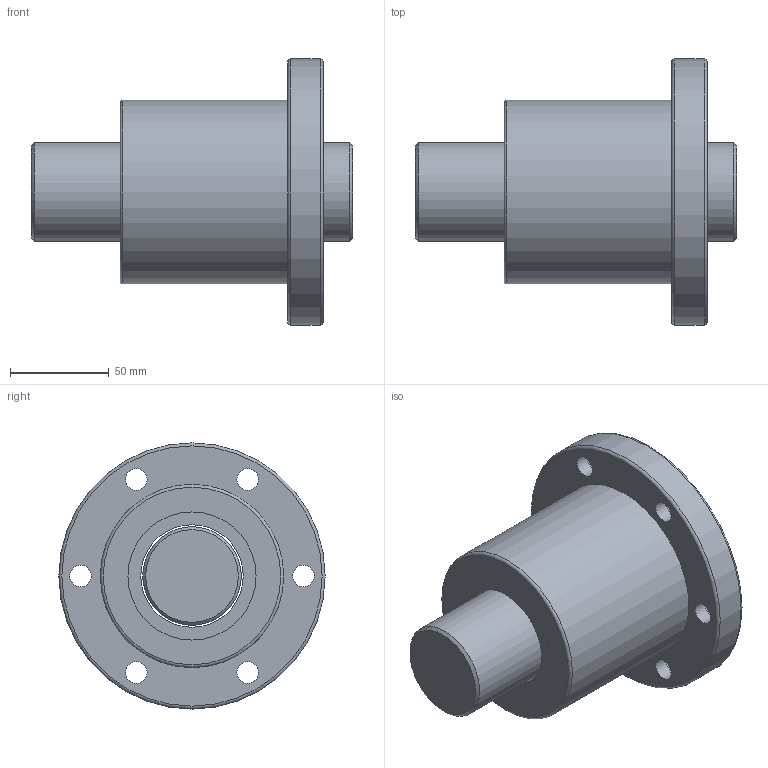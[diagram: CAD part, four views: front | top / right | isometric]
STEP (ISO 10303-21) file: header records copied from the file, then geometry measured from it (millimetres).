
FILE_DESCRIPTION(/* description */ (''),/* implementation_level */ '2;1');
FILE_NAME(/* name */ 'SFT5010',/* time_stamp */ '2007-10-26T11:14:36+08:00',/* author */ (''),/* organization */ (''),/* preprocessor_version */ 'ST-DEVELOPER v9',/* originating_system */ 'EDS PLM SOLUTIONS - UNIGRAPHICS NX 1.0',/* authorisation */ '');
FILE_SCHEMA (('CONFIG_CONTROL_DESIGN'));
Length unit declared in the file: millimetre
Products named in the file (1): FANNDA0400dn
Bounding box: 163 x 135 x 135 mm (x, y, z)
Volume: 915593.8 mm3; surface area: 117439.4 mm2
Topology: 4 solids, 4 shells, 44 faces, 81 edges, 54 vertices
Faces by surface type: cylinder 22, plane 17, torus 3, cone 2
Full cylindrical faces by diameter (mm): 11 x6, 17.5 x6, 50 x1, 52 x3, 65 x4, 93 x1, 135 x1
Entity records: 1050 total; most frequent: DIRECTION 188, CARTESIAN_POINT 143, EDGE_LOOP 98, ORIENTED_EDGE 98, AXIS2_PLACEMENT_3D 94, FACE_BOUND 79, VERTEX_POINT 49, EDGE_CURVE 49
